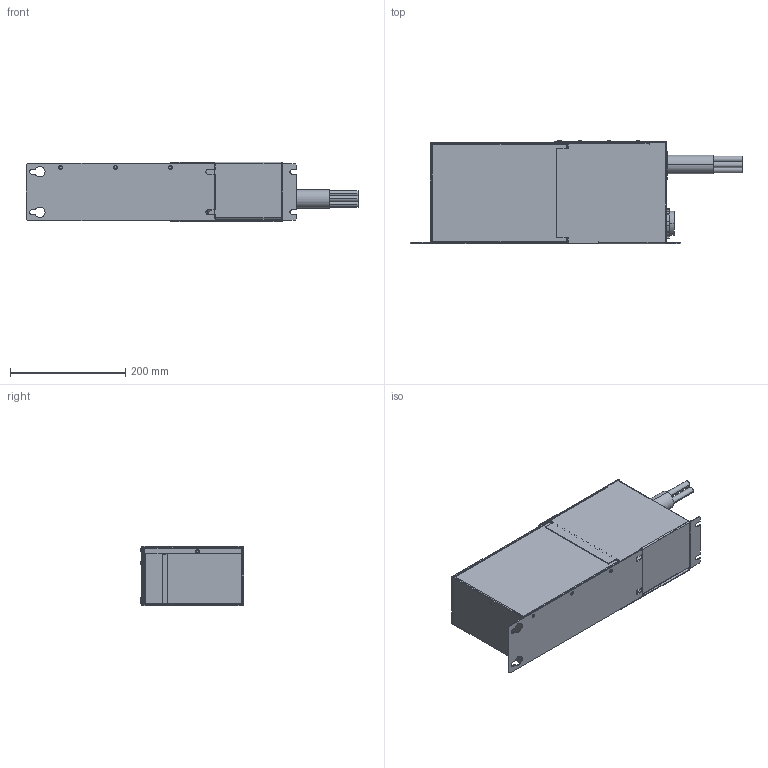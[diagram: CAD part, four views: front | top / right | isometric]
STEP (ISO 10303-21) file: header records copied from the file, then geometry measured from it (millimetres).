
FILE_DESCRIPTION(('STEP AP242'),'1');
FILE_NAME('vw3a4705.stp','2021-02-21T08:07:12',('TraceParts'),('TraceParts S.A.'),'Spatial InterOp 3D',' ',' ');
FILE_SCHEMA(('AP242_MANAGED_MODEL_BASED_3D_ENGINEERING_MIM_LF {1 0 10303 442 1 1 4}'));
Length unit declared in the file: millimetre
Products named in the file (1): vw3a4705_1
Bounding box: 575 x 178.85 x 103 mm (x, y, z)
Volume: 933344.3 mm3; surface area: 763638.3 mm2
Topology: 52 solids, 52 shells, 1364 faces, 3402 edges, 2209 vertices
Faces by surface type: plane 751, cylinder 479, cone 96, torus 24, sphere 14
Entity records: 42362 total; most frequent: CARTESIAN_POINT 8681, DIRECTION 7185, ORIENTED_EDGE 6804, EDGE_CURVE 3402, AXIS2_PLACEMENT_3D 2643, VERTEX_POINT 2209, LINE 1899, VECTOR 1899
